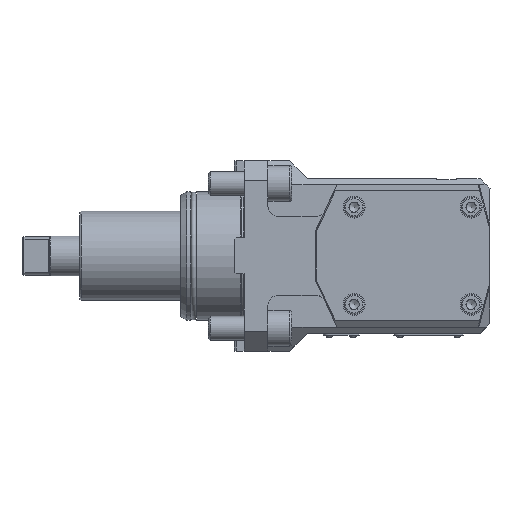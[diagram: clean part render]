
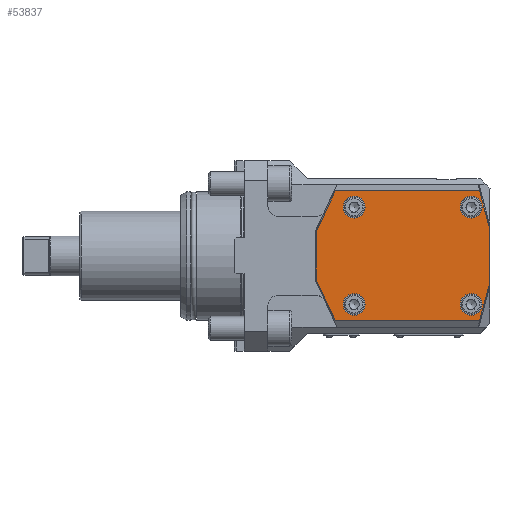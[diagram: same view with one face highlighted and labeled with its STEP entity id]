
A CAD part, top view. The second image highlights one B-rep face of the part: STEP entity #53837.
In plain terms, the highlighted planar face has unit normal (0, 0, 1).
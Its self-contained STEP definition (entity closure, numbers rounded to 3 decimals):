
#24434=VECTOR('',#37833,1.);
#24435=VECTOR('',#37834,1.);
#24436=VECTOR('',#37835,1.);
#24437=VECTOR('',#37836,1.);
#24438=VECTOR('',#37837,1.);
#24439=VECTOR('',#37838,1.);
#24440=VECTOR('',#37839,1.);
#24441=VECTOR('',#37840,1.);
#25668=LINE('',#41887,#24434);
#25669=LINE('',#41889,#24435);
#25670=LINE('',#41891,#24436);
#25671=LINE('',#41893,#24437);
#25672=LINE('',#41895,#24438);
#25673=LINE('',#41897,#24439);
#25674=LINE('',#41899,#24440);
#25675=LINE('',#41900,#24441);
#26902=PLANE('',#52211);
#27462=ORIENTED_EDGE('',*,*,#33499,.F.);
#27463=ORIENTED_EDGE('',*,*,#33500,.F.);
#27464=ORIENTED_EDGE('',*,*,#33501,.F.);
#27465=ORIENTED_EDGE('',*,*,#33502,.F.);
#27466=ORIENTED_EDGE('',*,*,#33503,.F.);
#27467=ORIENTED_EDGE('',*,*,#33504,.F.);
#27468=ORIENTED_EDGE('',*,*,#33505,.F.);
#27469=ORIENTED_EDGE('',*,*,#33506,.F.);
#27470=ORIENTED_EDGE('',*,*,#33497,.F.);
#27471=ORIENTED_EDGE('',*,*,#33507,.F.);
#27472=ORIENTED_EDGE('',*,*,#33508,.F.);
#27473=ORIENTED_EDGE('',*,*,#33509,.F.);
#31546=CIRCLE('',#52209,5.5);
#31548=CIRCLE('',#52212,5.5);
#31549=CIRCLE('',#52213,5.5);
#31550=CIRCLE('',#52214,5.5);
#32082=VERTEX_POINT('',#41880);
#32084=VERTEX_POINT('',#41885);
#32085=VERTEX_POINT('',#41886);
#32086=VERTEX_POINT('',#41888);
#32087=VERTEX_POINT('',#41890);
#32088=VERTEX_POINT('',#41892);
#32089=VERTEX_POINT('',#41894);
#32090=VERTEX_POINT('',#41896);
#32091=VERTEX_POINT('',#41898);
#32092=VERTEX_POINT('',#41901);
#32093=VERTEX_POINT('',#41903);
#32094=VERTEX_POINT('',#41905);
#33497=EDGE_CURVE('',#32082,#32082,#31546,.T.);
#33499=EDGE_CURVE('',#32084,#32085,#25668,.T.);
#33500=EDGE_CURVE('',#32086,#32084,#25669,.T.);
#33501=EDGE_CURVE('',#32087,#32086,#25670,.T.);
#33502=EDGE_CURVE('',#32088,#32087,#25671,.T.);
#33503=EDGE_CURVE('',#32089,#32088,#25672,.T.);
#33504=EDGE_CURVE('',#32090,#32089,#25673,.T.);
#33505=EDGE_CURVE('',#32091,#32090,#25674,.T.);
#33506=EDGE_CURVE('',#32085,#32091,#25675,.T.);
#33507=EDGE_CURVE('',#32092,#32092,#31548,.T.);
#33508=EDGE_CURVE('',#32093,#32093,#31549,.T.);
#33509=EDGE_CURVE('',#32094,#32094,#31550,.T.);
#35542=EDGE_LOOP('',(#27462,#27463,#27464,#27465,#27466,#27467,#27468,#27469));
#35543=EDGE_LOOP('',(#27470));
#35544=EDGE_LOOP('',(#27471));
#35545=EDGE_LOOP('',(#27472));
#35546=EDGE_LOOP('',(#27473));
#36677=FACE_BOUND('',#35542,.T.);
#36678=FACE_BOUND('',#35543,.T.);
#36679=FACE_BOUND('',#35544,.T.);
#36680=FACE_BOUND('',#35545,.T.);
#36681=FACE_BOUND('',#35546,.T.);
#37827=DIRECTION('',(0.,0.,1.));
#37828=DIRECTION('',(5.5,0.,0.));
#37831=DIRECTION('',(0.,0.,1.));
#37832=DIRECTION('',(0.,-1.,0.));
#37833=DIRECTION('',(72.709,0.,0.));
#37834=DIRECTION('',(9.524,20.425,0.));
#37835=DIRECTION('',(0.,24.599,0.));
#37836=DIRECTION('',(-9.524,20.425,0.));
#37837=DIRECTION('',(-72.709,0.,0.));
#37838=DIRECTION('',(-4.767,-17.79,0.));
#37839=DIRECTION('',(0.,-29.868,0.));
#37840=DIRECTION('',(4.767,-17.79,0.));
#37841=DIRECTION('',(0.,0.,1.));
#37842=DIRECTION('',(5.5,0.,0.));
#37843=DIRECTION('',(0.,0.,1.));
#37844=DIRECTION('',(5.5,0.,0.));
#37845=DIRECTION('',(0.,0.,1.));
#37846=DIRECTION('',(5.5,0.,0.));
#41880=CARTESIAN_POINT('',(120.,-124.5,61.));
#41881=CARTESIAN_POINT('',(114.5,-124.5,61.));
#41884=CARTESIAN_POINT('',(124.,-115.,61.));
#41885=CARTESIAN_POINT('',(46.024,-67.276,61.));
#41886=CARTESIAN_POINT('',(118.733,-67.276,61.));
#41887=CARTESIAN_POINT('',(46.024,-67.276,61.));
#41888=CARTESIAN_POINT('',(36.5,-87.7,61.));
#41889=CARTESIAN_POINT('',(36.5,-87.7,61.));
#41890=CARTESIAN_POINT('',(36.5,-112.3,61.));
#41891=CARTESIAN_POINT('',(36.5,-112.3,61.));
#41892=CARTESIAN_POINT('',(46.024,-132.724,61.));
#41893=CARTESIAN_POINT('',(46.024,-132.724,61.));
#41894=CARTESIAN_POINT('',(118.733,-132.724,61.));
#41895=CARTESIAN_POINT('',(118.733,-132.724,61.));
#41896=CARTESIAN_POINT('',(123.5,-114.934,61.));
#41897=CARTESIAN_POINT('',(123.5,-114.934,61.));
#41898=CARTESIAN_POINT('',(123.5,-85.066,61.));
#41899=CARTESIAN_POINT('',(123.5,-85.066,61.));
#41900=CARTESIAN_POINT('',(118.733,-67.276,61.));
#41901=CARTESIAN_POINT('',(120.,-75.5,61.));
#41902=CARTESIAN_POINT('',(114.5,-75.5,61.));
#41903=CARTESIAN_POINT('',(61.,-124.5,61.));
#41904=CARTESIAN_POINT('',(55.5,-124.5,61.));
#41905=CARTESIAN_POINT('',(61.,-75.5,61.));
#41906=CARTESIAN_POINT('',(55.5,-75.5,61.));
#52209=AXIS2_PLACEMENT_3D('',#41881,#37827,#37828);
#52211=AXIS2_PLACEMENT_3D('',#41884,#37831,#37832);
#52212=AXIS2_PLACEMENT_3D('',#41902,#37841,#37842);
#52213=AXIS2_PLACEMENT_3D('',#41904,#37843,#37844);
#52214=AXIS2_PLACEMENT_3D('',#41906,#37845,#37846);
#53837=ADVANCED_FACE('',(#36677,#36678,#36679,#36680,#36681),#26902,.T.);
